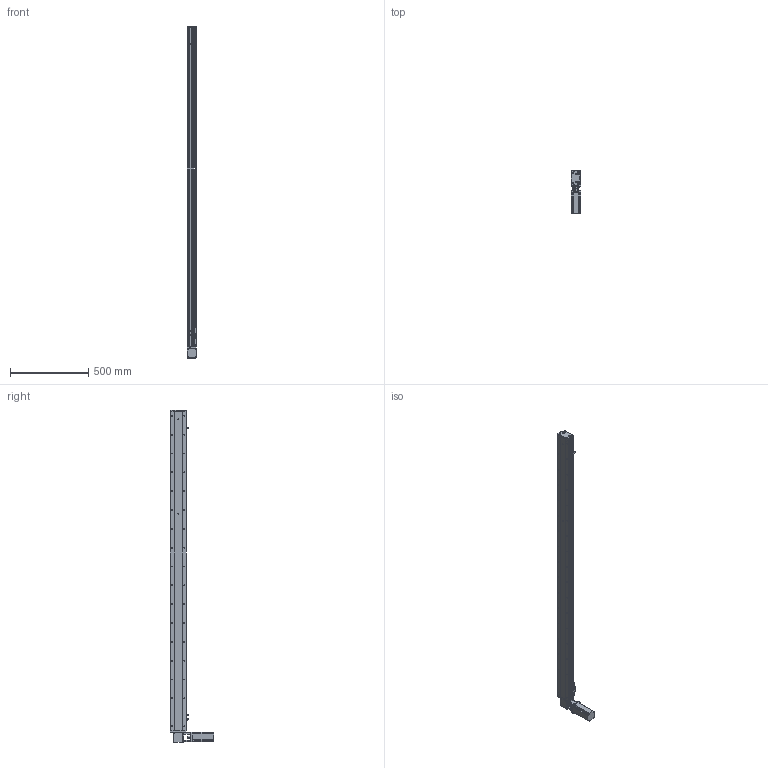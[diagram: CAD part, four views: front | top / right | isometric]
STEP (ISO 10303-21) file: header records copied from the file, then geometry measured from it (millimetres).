
FILE_DESCRIPTION (( 'STEP AP214' ), '1' );
FILE_NAME ('KSD100B-S1850-MLT-CM.STEP', '2019-11-11T05:34:44', ( '微软用户' ), ( '微软中国' ), 'SwSTEP 2.0', 'SolidWorks 2014', '' );
FILE_SCHEMA (( 'AUTOMOTIVE_DESIGN' ));
Length unit declared in the file: millimetre
Products named in the file (12): 100宽同步带安装板半封闭; 100宽马达安装板同步带; 100遵傷啣肮祭湍; 100宽底板半封闭同步带1850行程; KSD100B-S1850-MLT-CM; 100宽安装板同步带带电机座400W,86; 100遵鎮湛假蚾啣1 ; 100宽防尘板1850行程-同步带; U倰嫖萇EEㄜSX672; 覜茼え100遵圉猾敕; 台达ECMA－C20604AS伺服电机; 100宽马达安装板同步带右
Assembly tree (13 placements, depth 2):
  KSD100B-S1850-MLT-CM
    100宽底板半封闭同步带1850行程
    100遵傷啣肮祭湍
    100宽马达安装板同步带
    100宽同步带安装板半封闭
    100宽马达安装板同步带右
    台达ECMA－C20604AS伺服电机
    覜茼え100遵圉猾敕
    U倰嫖萇EEㄜSX672  x3
    100宽防尘板1850行程-同步带
    100遵鎮湛假蚾啣1 
    100宽安装板同步带带电机座400W,86
Bounding box: 61 x 275 x 2115 mm (x, y, z)
Volume: 4326633.9 mm3; surface area: 1466673.3 mm2
Topology: 14 solids, 14 shells, 1694 faces, 4803 edges, 3017 vertices
Faces by surface type: cylinder 896, plane 603, cone 195
Entity records: 61671 total; most frequent: CARTESIAN_POINT 13468, DIRECTION 8411, ORIENTED_EDGE 8122, EDGE_CURVE 4061, AXIS2_PLACEMENT_3D 3122, VERTEX_POINT 2641, LINE 2167, VECTOR 2167
